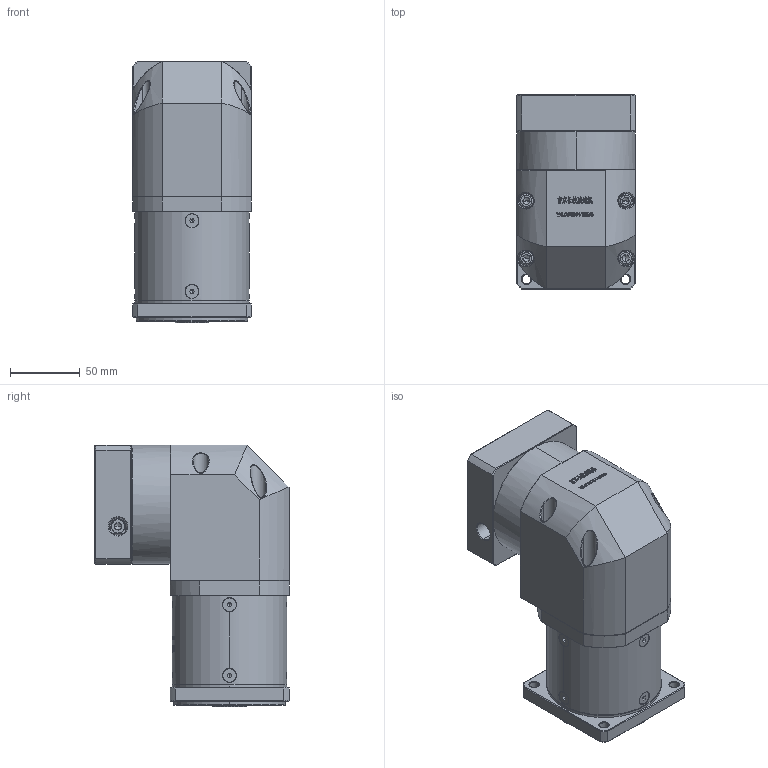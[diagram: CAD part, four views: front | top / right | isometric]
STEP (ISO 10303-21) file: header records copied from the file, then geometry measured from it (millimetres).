
FILE_DESCRIPTION (( 'STEP AP214' ), '1' );
FILE_NAME ('ZFR80-K15-L2-19-80-100-M6.step', '2022-05-08T12:08:39', ( '' ), ( 'Microsoft' ), 'SwSTEP 2.0', 'SolidWorks 2016', '' );
FILE_SCHEMA (( 'AUTOMOTIVE_DESIGN' ));
Length unit declared in the file: millimetre
Products named in the file (1): ZFR80-K15-L2-19-80-100-M6
Bounding box: 85 x 138.6 x 187 mm (x, y, z)
Volume: 1343430.4 mm3; surface area: 139617.5 mm2
Topology: 13 solids, 13 shells, 3011 faces, 7924 edges, 5062 vertices
Faces by surface type: plane 1610, bspline 614, cylinder 414, cone 359, torus 14
Entity records: 158926 total; most frequent: CARTESIAN_POINT 56955, ORIENTED_EDGE 15760, DIRECTION 11900, EDGE_CURVE 7880, VERTEX_POINT 5062, VECTOR 4924, LINE 4924, AXIS2_PLACEMENT_3D 3488
